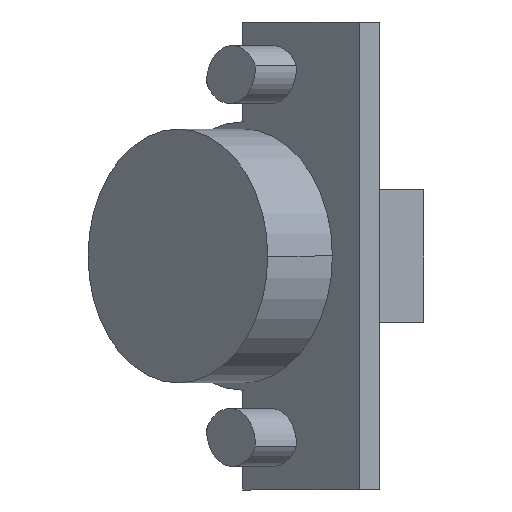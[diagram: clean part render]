
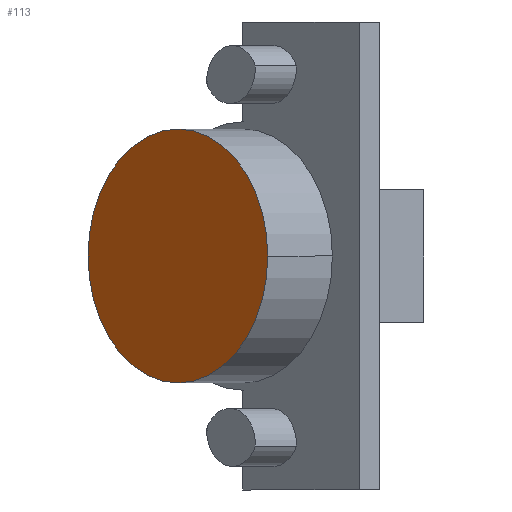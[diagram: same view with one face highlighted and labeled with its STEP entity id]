
A CAD part, front view. The second image highlights one B-rep face of the part: STEP entity #113.
In plain terms, the highlighted planar face has unit normal (-0.707, -0.707, 0).
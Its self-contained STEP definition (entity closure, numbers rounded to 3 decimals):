
#48 = AXIS2_PLACEMENT_3D ( 'NONE', #1311, #1304, #717 ) ;
#93 = DIRECTION ( 'NONE',  ( 0.707, -0.707, 0. ) ) ;
#113 = ADVANCED_FACE ( 'NONE', ( #305 ), #934, .T. ) ;
#117 = CIRCLE ( 'NONE', #361, 17.5 ) ;
#194 = ORIENTED_EDGE ( 'NONE', *, *, #742, .T. ) ;
#196 = CARTESIAN_POINT ( 'NONE',  ( -6.36, -43.86, 0. ) ) ;
#209 = ORIENTED_EDGE ( 'NONE', *, *, #285, .T. ) ;
#285 = EDGE_CURVE ( 'NONE', #795, #1596, #117, .T. ) ;
#305 = FACE_OUTER_BOUND ( 'NONE', #1061, .T. ) ;
#361 = AXIS2_PLACEMENT_3D ( 'NONE', #464, #597, #93 ) ;
#400 = CARTESIAN_POINT ( 'NONE',  ( 6.015, -56.234, 0. ) ) ;
#443 = DIRECTION ( 'NONE',  ( 0.707, -0.707, 0. ) ) ;
#457 = CARTESIAN_POINT ( 'NONE',  ( -18.734, -31.485, 0. ) ) ;
#464 = CARTESIAN_POINT ( 'NONE',  ( -6.36, -43.86, 0. ) ) ;
#597 = DIRECTION ( 'NONE',  ( -0.707, -0.707, 0. ) ) ;
#717 = DIRECTION ( 'NONE',  ( 0.707, -0.707, 0. ) ) ;
#742 = EDGE_CURVE ( 'NONE', #1596, #795, #1513, .T. ) ;
#795 = VERTEX_POINT ( 'NONE', #457 ) ;
#855 = AXIS2_PLACEMENT_3D ( 'NONE', #196, #1564, #443 ) ;
#934 = PLANE ( 'NONE',  #855 ) ;
#1061 = EDGE_LOOP ( 'NONE', ( #209, #194 ) ) ;
#1304 = DIRECTION ( 'NONE',  ( -0.707, -0.707, 0. ) ) ;
#1311 = CARTESIAN_POINT ( 'NONE',  ( -6.36, -43.86, 0. ) ) ;
#1513 = CIRCLE ( 'NONE', #48, 17.5 ) ;
#1564 = DIRECTION ( 'NONE',  ( -0.707, -0.707, 0. ) ) ;
#1596 = VERTEX_POINT ( 'NONE', #400 ) ;
